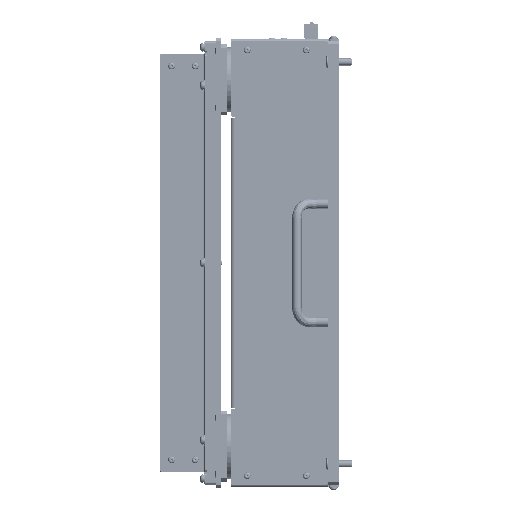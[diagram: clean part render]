
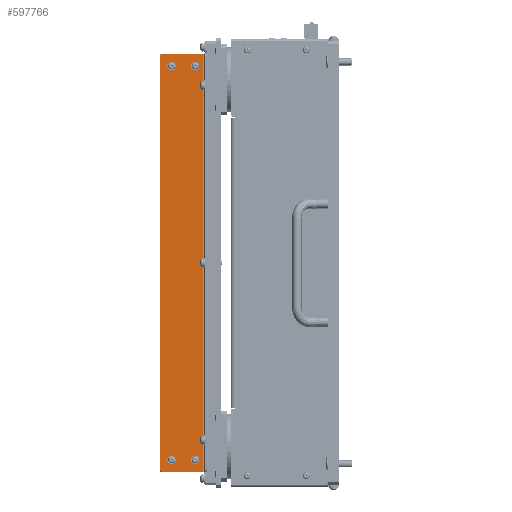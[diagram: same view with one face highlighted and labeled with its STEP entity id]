
A CAD part, left-side view. The second image highlights one B-rep face of the part: STEP entity #597766.
In plain terms, the highlighted planar face has unit normal (-1, 0, 0).
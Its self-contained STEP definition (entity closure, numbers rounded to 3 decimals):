
#3912 = AXIS2_PLACEMENT_3D ( 'NONE', #245093, #294577, #672117 ) ;
#14490 = CARTESIAN_POINT ( 'NONE',  ( -237., 110., -176.5 ) ) ;
#21497 = ORIENTED_EDGE ( 'NONE', *, *, #574607, .F. ) ;
#23022 = DIRECTION ( 'NONE',  ( 0., -1., 0. ) ) ;
#29589 = CARTESIAN_POINT ( 'NONE',  ( -237., 145., -176.5 ) ) ;
#30307 = AXIS2_PLACEMENT_3D ( 'NONE', #678589, #36930, #633668 ) ;
#36930 = DIRECTION ( 'NONE',  ( -1., 0., 0. ) ) ;
#44146 = DIRECTION ( 'NONE',  ( 0., 0., 1. ) ) ;
#52553 = FACE_BOUND ( 'NONE', #554440, .T. ) ;
#53303 = ORIENTED_EDGE ( 'NONE', *, *, #434824, .T. ) ;
#61146 = ORIENTED_EDGE ( 'NONE', *, *, #668135, .T. ) ;
#64143 = LINE ( 'NONE', #194797, #140148 ) ;
#65133 = ORIENTED_EDGE ( 'NONE', *, *, #220603, .F. ) ;
#65446 = EDGE_CURVE ( 'NONE', #485525, #467403, #698382, .T. ) ;
#68242 = DIRECTION ( 'NONE',  ( -1., 0., 0. ) ) ;
#70174 = DIRECTION ( 'NONE',  ( 0., 0., 1. ) ) ;
#74342 = CIRCLE ( 'NONE', #328570, 1.7 ) ;
#84450 = CIRCLE ( 'NONE', #466218, 1.7 ) ;
#86468 = FACE_BOUND ( 'NONE', #344066, .T. ) ;
#88609 = CARTESIAN_POINT ( 'NONE',  ( -237., 137., 168.2 ) ) ;
#101549 = CARTESIAN_POINT ( 'NONE',  ( -237., 147., -174.5 ) ) ;
#111588 = FACE_BOUND ( 'NONE', #426337, .T. ) ;
#119764 = AXIS2_PLACEMENT_3D ( 'NONE', #265674, #423999, #44146 ) ;
#120180 = CIRCLE ( 'NONE', #3912, 2. ) ;
#120286 = CIRCLE ( 'NONE', #30307, 1.7 ) ;
#135752 = ORIENTED_EDGE ( 'NONE', *, *, #296124, .F. ) ;
#140148 = VECTOR ( 'NONE', #520128, 1000. ) ;
#142240 = VECTOR ( 'NONE', #511362, 1000. ) ;
#149989 = CARTESIAN_POINT ( 'NONE',  ( -237., 117., -166.5 ) ) ;
#162065 = VERTEX_POINT ( 'NONE', #88609 ) ;
#174779 = VECTOR ( 'NONE', #542189, 1000. ) ;
#178749 = CARTESIAN_POINT ( 'NONE',  ( -237., 117., 166.5 ) ) ;
#184111 = ORIENTED_EDGE ( 'NONE', *, *, #494723, .F. ) ;
#193888 = LINE ( 'NONE', #296501, #590473 ) ;
#194797 = CARTESIAN_POINT ( 'NONE',  ( -237., 107., 176.5 ) ) ;
#194985 = ORIENTED_EDGE ( 'NONE', *, *, #395126, .T. ) ;
#196120 = FACE_OUTER_BOUND ( 'NONE', #568369, .T. ) ;
#197233 = ORIENTED_EDGE ( 'NONE', *, *, #306558, .F. ) ;
#198690 = DIRECTION ( 'NONE',  ( 0., 0., -1. ) ) ;
#208769 = DIRECTION ( 'NONE',  ( 0., 0., 1. ) ) ;
#211856 = AXIS2_PLACEMENT_3D ( 'NONE', #149989, #258180, #208769 ) ;
#220603 = EDGE_CURVE ( 'NONE', #467403, #485525, #265174, .T. ) ;
#228639 = CARTESIAN_POINT ( 'NONE',  ( -237., 137., -166.5 ) ) ;
#230528 = DIRECTION ( 'NONE',  ( -1., 0., 0. ) ) ;
#245093 = CARTESIAN_POINT ( 'NONE',  ( -237., 145., 174.5 ) ) ;
#250162 = CIRCLE ( 'NONE', #211856, 1.7 ) ;
#258180 = DIRECTION ( 'NONE',  ( -1., 0., 0. ) ) ;
#263814 = CARTESIAN_POINT ( 'NONE',  ( -237., 137., 164.8 ) ) ;
#265174 = CIRCLE ( 'NONE', #294419, 1.7 ) ;
#265674 = CARTESIAN_POINT ( 'NONE',  ( -237., 117., 166.5 ) ) ;
#267894 = EDGE_CURVE ( 'NONE', #338861, #463521, #404166, .T. ) ;
#272001 = DIRECTION ( 'NONE',  ( 0., 0., 1. ) ) ;
#275554 = AXIS2_PLACEMENT_3D ( 'NONE', #408723, #675133, #198690 ) ;
#294419 = AXIS2_PLACEMENT_3D ( 'NONE', #178749, #230528, #70174 ) ;
#294577 = DIRECTION ( 'NONE',  ( -1., 0., 0. ) ) ;
#296124 = EDGE_CURVE ( 'NONE', #392749, #514094, #515495, .T. ) ;
#296501 = CARTESIAN_POINT ( 'NONE',  ( -237., 107., -176.5 ) ) ;
#304253 = DIRECTION ( 'NONE',  ( 0., 0., 1. ) ) ;
#306558 = EDGE_CURVE ( 'NONE', #453055, #419994, #688530, .T. ) ;
#318722 = CARTESIAN_POINT ( 'NONE',  ( -237., 117., -164.8 ) ) ;
#323675 = EDGE_CURVE ( 'NONE', #613378, #475492, #64143, .T. ) ;
#328570 = AXIS2_PLACEMENT_3D ( 'NONE', #471747, #570897, #304253 ) ;
#332118 = CARTESIAN_POINT ( 'NONE',  ( -237., 147., -176.5 ) ) ;
#332805 = VERTEX_POINT ( 'NONE', #263814 ) ;
#335014 = LINE ( 'NONE', #641415, #174779 ) ;
#338861 = VERTEX_POINT ( 'NONE', #101549 ) ;
#344066 = EDGE_LOOP ( 'NONE', ( #691133, #65133 ) ) ;
#355533 = ORIENTED_EDGE ( 'NONE', *, *, #622503, .F. ) ;
#358366 = CARTESIAN_POINT ( 'NONE',  ( -237., 137., -164.8 ) ) ;
#391352 = DIRECTION ( 'NONE',  ( 0., 0., -1. ) ) ;
#392749 = VERTEX_POINT ( 'NONE', #318722 ) ;
#395126 = EDGE_CURVE ( 'NONE', #475492, #626880, #120180, .T. ) ;
#396074 = ORIENTED_EDGE ( 'NONE', *, *, #267894, .T. ) ;
#404166 = CIRCLE ( 'NONE', #455824, 2. ) ;
#408723 = CARTESIAN_POINT ( 'NONE',  ( -237., 127., 0. ) ) ;
#413335 = PLANE ( 'NONE',  #275554 ) ;
#419994 = VERTEX_POINT ( 'NONE', #560843 ) ;
#420058 = CARTESIAN_POINT ( 'NONE',  ( -237., 147., 174.5 ) ) ;
#423999 = DIRECTION ( 'NONE',  ( -1., 0., 0. ) ) ;
#424853 = ORIENTED_EDGE ( 'NONE', *, *, #323675, .T. ) ;
#426337 = EDGE_LOOP ( 'NONE', ( #355533, #618566 ) ) ;
#427715 = EDGE_CURVE ( 'NONE', #419994, #453055, #74342, .T. ) ;
#432337 = FACE_BOUND ( 'NONE', #495523, .T. ) ;
#434824 = EDGE_CURVE ( 'NONE', #463521, #472949, #193888, .T. ) ;
#440911 = DIRECTION ( 'NONE',  ( -1., 0., 0. ) ) ;
#445728 = DIRECTION ( 'NONE',  ( 0., 0., 1. ) ) ;
#453055 = VERTEX_POINT ( 'NONE', #358366 ) ;
#454906 = CARTESIAN_POINT ( 'NONE',  ( -237., 117., 164.8 ) ) ;
#455824 = AXIS2_PLACEMENT_3D ( 'NONE', #660087, #440911, #391352 ) ;
#457262 = AXIS2_PLACEMENT_3D ( 'NONE', #228639, #68242, #445728 ) ;
#463521 = VERTEX_POINT ( 'NONE', #29589 ) ;
#466218 = AXIS2_PLACEMENT_3D ( 'NONE', #676028, #673666, #619628 ) ;
#467403 = VERTEX_POINT ( 'NONE', #454906 ) ;
#471747 = CARTESIAN_POINT ( 'NONE',  ( -237., 137., -166.5 ) ) ;
#472949 = VERTEX_POINT ( 'NONE', #14490 ) ;
#475492 = VERTEX_POINT ( 'NONE', #586377 ) ;
#485525 = VERTEX_POINT ( 'NONE', #651443 ) ;
#487762 = LINE ( 'NONE', #332118, #142240 ) ;
#494723 = EDGE_CURVE ( 'NONE', #613378, #472949, #335014, .T. ) ;
#495523 = EDGE_LOOP ( 'NONE', ( #135752, #21497 ) ) ;
#511362 = DIRECTION ( 'NONE',  ( 0., 0., -1. ) ) ;
#514094 = VERTEX_POINT ( 'NONE', #618070 ) ;
#515495 = CIRCLE ( 'NONE', #678366, 1.7 ) ;
#520128 = DIRECTION ( 'NONE',  ( 0., 1., 0. ) ) ;
#542189 = DIRECTION ( 'NONE',  ( 0., 0., -1. ) ) ;
#554440 = EDGE_LOOP ( 'NONE', ( #197233, #641785 ) ) ;
#560843 = CARTESIAN_POINT ( 'NONE',  ( -237., 137., -168.2 ) ) ;
#568369 = EDGE_LOOP ( 'NONE', ( #61146, #396074, #53303, #184111, #424853, #194985 ) ) ;
#570897 = DIRECTION ( 'NONE',  ( -1., 0., 0. ) ) ;
#572796 = EDGE_CURVE ( 'NONE', #332805, #162065, #84450, .T. ) ;
#574607 = EDGE_CURVE ( 'NONE', #514094, #392749, #250162, .T. ) ;
#586377 = CARTESIAN_POINT ( 'NONE',  ( -237., 145., 176.5 ) ) ;
#590473 = VECTOR ( 'NONE', #23022, 1000. ) ;
#592993 = CARTESIAN_POINT ( 'NONE',  ( -237., 117., -166.5 ) ) ;
#597766 = ADVANCED_FACE ( 'NONE', ( #432337, #111588, #86468, #196120, #52553 ), #413335, .F. ) ;
#613378 = VERTEX_POINT ( 'NONE', #660833 ) ;
#618070 = CARTESIAN_POINT ( 'NONE',  ( -237., 117., -168.2 ) ) ;
#618566 = ORIENTED_EDGE ( 'NONE', *, *, #572796, .F. ) ;
#619628 = DIRECTION ( 'NONE',  ( 0., 0., 1. ) ) ;
#622503 = EDGE_CURVE ( 'NONE', #162065, #332805, #120286, .T. ) ;
#626880 = VERTEX_POINT ( 'NONE', #420058 ) ;
#633668 = DIRECTION ( 'NONE',  ( 0., 0., 1. ) ) ;
#641415 = CARTESIAN_POINT ( 'NONE',  ( -237., 110., 176.5 ) ) ;
#641785 = ORIENTED_EDGE ( 'NONE', *, *, #427715, .F. ) ;
#651443 = CARTESIAN_POINT ( 'NONE',  ( -237., 117., 168.2 ) ) ;
#651848 = DIRECTION ( 'NONE',  ( -1., 0., 0. ) ) ;
#660087 = CARTESIAN_POINT ( 'NONE',  ( -237., 145., -174.5 ) ) ;
#660833 = CARTESIAN_POINT ( 'NONE',  ( -237., 110., 176.5 ) ) ;
#668135 = EDGE_CURVE ( 'NONE', #626880, #338861, #487762, .T. ) ;
#672117 = DIRECTION ( 'NONE',  ( 0., 0., -1. ) ) ;
#673666 = DIRECTION ( 'NONE',  ( -1., 0., 0. ) ) ;
#675133 = DIRECTION ( 'NONE',  ( 1., 0., 0. ) ) ;
#676028 = CARTESIAN_POINT ( 'NONE',  ( -237., 137., 166.5 ) ) ;
#678366 = AXIS2_PLACEMENT_3D ( 'NONE', #592993, #651848, #272001 ) ;
#678589 = CARTESIAN_POINT ( 'NONE',  ( -237., 137., 166.5 ) ) ;
#688530 = CIRCLE ( 'NONE', #457262, 1.7 ) ;
#691133 = ORIENTED_EDGE ( 'NONE', *, *, #65446, .F. ) ;
#698382 = CIRCLE ( 'NONE', #119764, 1.7 ) ;
